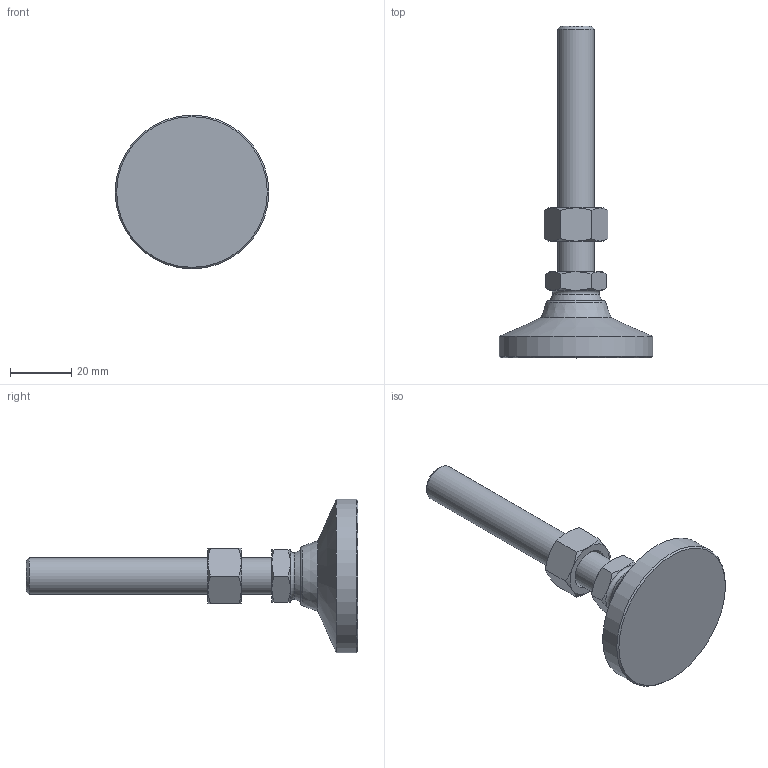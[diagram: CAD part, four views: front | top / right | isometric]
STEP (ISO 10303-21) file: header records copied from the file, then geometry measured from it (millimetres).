
FILE_DESCRIPTION( ( 'STEP AP214' ), ' ' );
FILE_NAME( 'O:/ganter_2015/teil_2/2_5/gn343_2/gn343_2_os/Levelling foot with threaded stud GN 343.2-50-M12-80-OS-(0).stp', '2015-10-26T09:08:02', ( '' ), ( '' ), ' ', 'PARTsolutions', ' ' );
FILE_SCHEMA( ( 'AUTOMOTIVE_DESIGN { 1 0 10303 214 1 1 1 1 }' ) );
Length unit declared in the file: millimetre
Products named in the file (4): Levelling foot with threaded stud GN 343.2-50-M12-80-OS-(0); _Levelling foot with threaded stud GN 343.2-50-M12-80-OS-(0)_foot; _Levelling foot with threaded stud GN 343.2-50-M12-80-OS-(0)_screw; _Stainless Steel-Levelling feet GN 343.2-50-M12-80-OS-(0)_nut
Assembly tree (3 placements, depth 2):
  Levelling foot with threaded stud GN 343.2-50-M12-80-OS-(0)
    _Levelling foot with threaded stud GN 343.2-50-M12-80-OS-(0)_foot
    _Levelling foot with threaded stud GN 343.2-50-M12-80-OS-(0)_screw
    _Stainless Steel-Levelling feet GN 343.2-50-M12-80-OS-(0)_nut
Bounding box: 50 x 108 x 50 mm (x, y, z)
Volume: 35514.3 mm3; surface area: 11532.1 mm2
Topology: 3 solids, 3 shells, 55 faces, 116 edges, 67 vertices
Faces by surface type: cone 30, plane 18, cylinder 3, torus 2, sphere 2
Full cylindrical faces by diameter (mm): 10.106 x1, 12 x1, 50 x1
Entity records: 2038 total; most frequent: CARTESIAN_POINT 495, DIRECTION 208, ORIENTED_EDGE 198, EDGE_CURVE 99, AXIS2_PLACEMENT_3D 98, EDGE_LOOP 70, VERTEX_POINT 65, FACE_OUTER_BOUND 60
